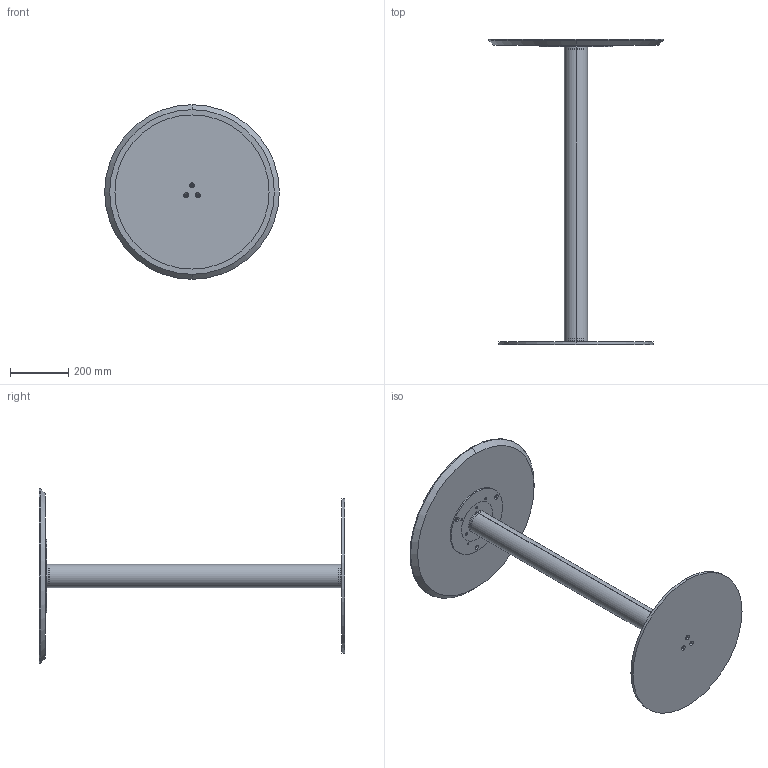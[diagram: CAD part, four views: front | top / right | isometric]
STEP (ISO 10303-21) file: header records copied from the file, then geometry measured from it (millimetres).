
FILE_DESCRIPTION (( 'STEP AP203' ), '1' );
FILE_NAME ('CB10W.STEP', '2024-08-08T08:53:58', ( '' ), ( '' ), 'SwSTEP 2.0', 'SolidWorks 2022', '' );
FILE_SCHEMA (( 'CONFIG_CONTROL_DESIGN' ));
Length unit declared in the file: millimetre
Products named in the file (6): CBS000000BAS-00-BISTRO PIASTRA INFERIORE_D.530; CBS100000PST-00-CONTROPIASTRA PER PIASTRA D.15cm GREZZO; CBSH00000COL-01-CILINDRO BISTRO COLONNA H105; CB10W; W1XCMXX-00-Piani Rotondi legno_d.600mm SP. 20; CBS200000PST-00-CONTROPIASTRA PER PIASTRA D.25cm GREZZO_250
Assembly tree (5 placements, depth 2):
  CB10W
    CBS000000BAS-00-BISTRO PIASTRA INFERIORE_D.530
    CBSH00000COL-01-CILINDRO BISTRO COLONNA H105
    W1XCMXX-00-Piani Rotondi legno_d.600mm SP. 20
    CBS100000PST-00-CONTROPIASTRA PER PIASTRA D.15cm GREZZO
    CBS200000PST-00-CONTROPIASTRA PER PIASTRA D.25cm GREZZO_250
Bounding box: 600 x 1049 x 600 mm (x, y, z)
Volume: 8455971 mm3; surface area: 1701618.9 mm2
Topology: 7 solids, 7 shells, 132 faces, 312 edges, 190 vertices
Faces by surface type: cylinder 76, cone 42, plane 14
Entity records: 4526 total; most frequent: DIRECTION 770, CARTESIAN_POINT 634, ORIENTED_EDGE 608, AXIS2_PLACEMENT_3D 326, EDGE_CURVE 304, VERTEX_POINT 190, EDGE_LOOP 190, CIRCLE 186
